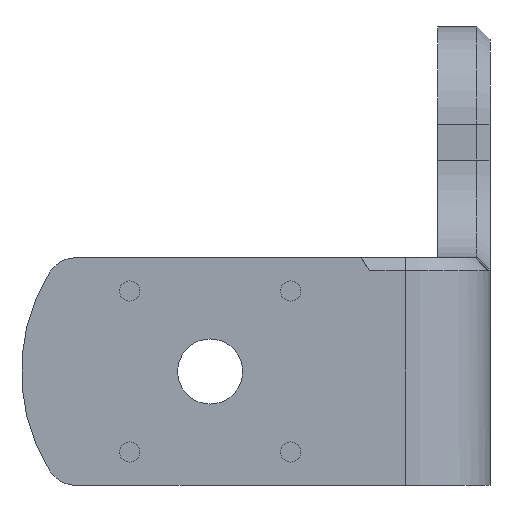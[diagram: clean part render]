
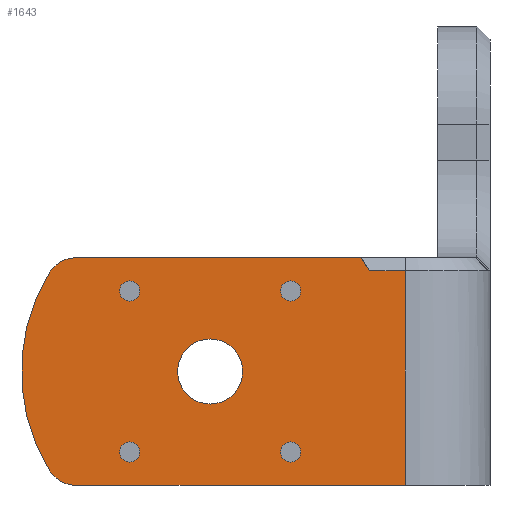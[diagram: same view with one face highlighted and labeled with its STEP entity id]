
A CAD part, left-side view. The second image highlights one B-rep face of the part: STEP entity #1643.
In plain terms, the highlighted planar face has unit normal (-1, 0, 0).
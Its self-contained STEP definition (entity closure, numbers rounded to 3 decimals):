
#33=FACE_BOUND('',#214,.T.);
#34=FACE_BOUND('',#215,.T.);
#35=FACE_BOUND('',#216,.T.);
#36=FACE_BOUND('',#217,.T.);
#37=FACE_BOUND('',#218,.T.);
#66=PLANE('',#1769);
#118=FACE_OUTER_BOUND('',#213,.T.);
#213=EDGE_LOOP('',(#1161,#1162,#1163,#1164,#1165,#1166,#1167,#1168));
#214=EDGE_LOOP('',(#1169));
#215=EDGE_LOOP('',(#1170));
#216=EDGE_LOOP('',(#1171));
#217=EDGE_LOOP('',(#1172));
#218=EDGE_LOOP('',(#1173));
#337=LINE('',#2479,#496);
#338=LINE('',#2481,#497);
#339=LINE('',#2483,#498);
#340=LINE('',#2487,#499);
#496=VECTOR('',#1978,10.);
#497=VECTOR('',#1979,10.);
#498=VECTOR('',#1980,10.);
#499=VECTOR('',#1983,10.);
#650=CIRCLE('',#1764,5.);
#652=CIRCLE('',#1767,29.);
#654=CIRCLE('',#1770,29.);
#655=CIRCLE('',#1771,5.);
#656=CIRCLE('',#1772,1.55);
#657=CIRCLE('',#1773,1.55);
#658=CIRCLE('',#1774,1.55);
#659=CIRCLE('',#1775,1.55);
#660=CIRCLE('',#1776,5.);
#739=VERTEX_POINT('',#2463);
#740=VERTEX_POINT('',#2464);
#743=VERTEX_POINT('',#2472);
#745=VERTEX_POINT('',#2478);
#746=VERTEX_POINT('',#2480);
#747=VERTEX_POINT('',#2482);
#748=VERTEX_POINT('',#2484);
#749=VERTEX_POINT('',#2486);
#750=VERTEX_POINT('',#2489);
#751=VERTEX_POINT('',#2491);
#752=VERTEX_POINT('',#2493);
#753=VERTEX_POINT('',#2495);
#754=VERTEX_POINT('',#2497);
#904=EDGE_CURVE('',#739,#740,#650,.T.);
#908=EDGE_CURVE('',#740,#743,#652,.T.);
#911=EDGE_CURVE('',#739,#745,#337,.T.);
#912=EDGE_CURVE('',#746,#745,#338,.T.);
#913=EDGE_CURVE('',#747,#746,#339,.T.);
#914=EDGE_CURVE('',#747,#748,#654,.T.);
#915=EDGE_CURVE('',#748,#749,#340,.T.);
#916=EDGE_CURVE('',#743,#749,#655,.T.);
#917=EDGE_CURVE('',#750,#750,#656,.T.);
#918=EDGE_CURVE('',#751,#751,#657,.T.);
#919=EDGE_CURVE('',#752,#752,#658,.T.);
#920=EDGE_CURVE('',#753,#753,#659,.T.);
#921=EDGE_CURVE('',#754,#754,#660,.T.);
#1161=ORIENTED_EDGE('',*,*,#904,.F.);
#1162=ORIENTED_EDGE('',*,*,#911,.T.);
#1163=ORIENTED_EDGE('',*,*,#912,.F.);
#1164=ORIENTED_EDGE('',*,*,#913,.F.);
#1165=ORIENTED_EDGE('',*,*,#914,.T.);
#1166=ORIENTED_EDGE('',*,*,#915,.T.);
#1167=ORIENTED_EDGE('',*,*,#916,.F.);
#1168=ORIENTED_EDGE('',*,*,#908,.F.);
#1169=ORIENTED_EDGE('',*,*,#917,.F.);
#1170=ORIENTED_EDGE('',*,*,#918,.F.);
#1171=ORIENTED_EDGE('',*,*,#919,.F.);
#1172=ORIENTED_EDGE('',*,*,#920,.F.);
#1173=ORIENTED_EDGE('',*,*,#921,.F.);
#1643=ADVANCED_FACE('',(#118,#33,#34,#35,#36,#37),#66,.F.);
#1764=AXIS2_PLACEMENT_3D('',#2465,#1963,#1964);
#1767=AXIS2_PLACEMENT_3D('',#2473,#1971,#1972);
#1769=AXIS2_PLACEMENT_3D('',#2477,#1976,#1977);
#1770=AXIS2_PLACEMENT_3D('',#2485,#1981,#1982);
#1771=AXIS2_PLACEMENT_3D('',#2488,#1984,#1985);
#1772=AXIS2_PLACEMENT_3D('',#2490,#1986,#1987);
#1773=AXIS2_PLACEMENT_3D('',#2492,#1988,#1989);
#1774=AXIS2_PLACEMENT_3D('',#2494,#1990,#1991);
#1775=AXIS2_PLACEMENT_3D('',#2496,#1992,#1993);
#1776=AXIS2_PLACEMENT_3D('',#2498,#1994,#1995);
#1963=DIRECTION('center_axis',(1.,0.,0.));
#1964=DIRECTION('ref_axis',(0.,0.489,-0.872));
#1971=DIRECTION('center_axis',(1.,0.,0.));
#1972=DIRECTION('ref_axis',(0.,1.,0.));
#1976=DIRECTION('center_axis',(1.,0.,0.));
#1977=DIRECTION('ref_axis',(0.,0.,-1.));
#1978=DIRECTION('',(0.,-1.,0.));
#1979=DIRECTION('',(0.,0.,-1.));
#1980=DIRECTION('',(0.,-1.,0.));
#1981=DIRECTION('center_axis',(-1.,0.,0.));
#1982=DIRECTION('ref_axis',(0.,0.,1.));
#1983=DIRECTION('',(0.,1.,0.));
#1984=DIRECTION('center_axis',(1.,0.,0.));
#1985=DIRECTION('ref_axis',(0.,0.489,0.872));
#1986=DIRECTION('center_axis',(-1.,0.,0.));
#1987=DIRECTION('ref_axis',(0.,-1.,0.));
#1988=DIRECTION('center_axis',(-1.,0.,0.));
#1989=DIRECTION('ref_axis',(0.,-1.,0.));
#1990=DIRECTION('center_axis',(-1.,0.,0.));
#1991=DIRECTION('ref_axis',(0.,-1.,0.));
#1992=DIRECTION('center_axis',(-1.,0.,0.));
#1993=DIRECTION('ref_axis',(0.,-1.,0.));
#1994=DIRECTION('center_axis',(-1.,0.,0.));
#1995=DIRECTION('ref_axis',(0.,-1.,0.));
#2463=CARTESIAN_POINT('',(0.,20.488,-17.5));
#2464=CARTESIAN_POINT('',(0.,24.756,-15.104));
#2465=CARTESIAN_POINT('Origin',(0.,20.488,-12.5));
#2472=CARTESIAN_POINT('',(0.,24.756,15.104));
#2473=CARTESIAN_POINT('Origin',(0.,0.,0.));
#2477=CARTESIAN_POINT('Origin',(0.,-8.75,0.));
#2478=CARTESIAN_POINT('',(0.,-30.,-17.5));
#2479=CARTESIAN_POINT('',(0.,-35.,-17.5));
#2480=CARTESIAN_POINT('',(0.,-30.,15.5));
#2481=CARTESIAN_POINT('',(0.,-30.,0.));
#2482=CARTESIAN_POINT('',(0.,-24.51,15.5));
#2483=CARTESIAN_POINT('',(0.,7.187,15.5));
#2484=CARTESIAN_POINT('',(0.,-23.125,17.5));
#2485=CARTESIAN_POINT('Origin',(0.,0.,0.));
#2486=CARTESIAN_POINT('',(0.,20.488,17.5));
#2487=CARTESIAN_POINT('',(0.,-30.,17.5));
#2488=CARTESIAN_POINT('Origin',(0.,20.488,12.5));
#2489=CARTESIAN_POINT('',(0.,-10.824,-12.374));
#2490=CARTESIAN_POINT('Origin',(0.,-12.374,-12.374));
#2491=CARTESIAN_POINT('',(0.,13.924,-12.374));
#2492=CARTESIAN_POINT('Origin',(0.,12.374,-12.374));
#2493=CARTESIAN_POINT('',(0.,-10.824,12.374));
#2494=CARTESIAN_POINT('Origin',(0.,-12.374,12.374));
#2495=CARTESIAN_POINT('',(0.,13.924,12.374));
#2496=CARTESIAN_POINT('Origin',(0.,12.374,12.374));
#2497=CARTESIAN_POINT('',(0.,5.,0.));
#2498=CARTESIAN_POINT('Origin',(0.,0.,0.));
